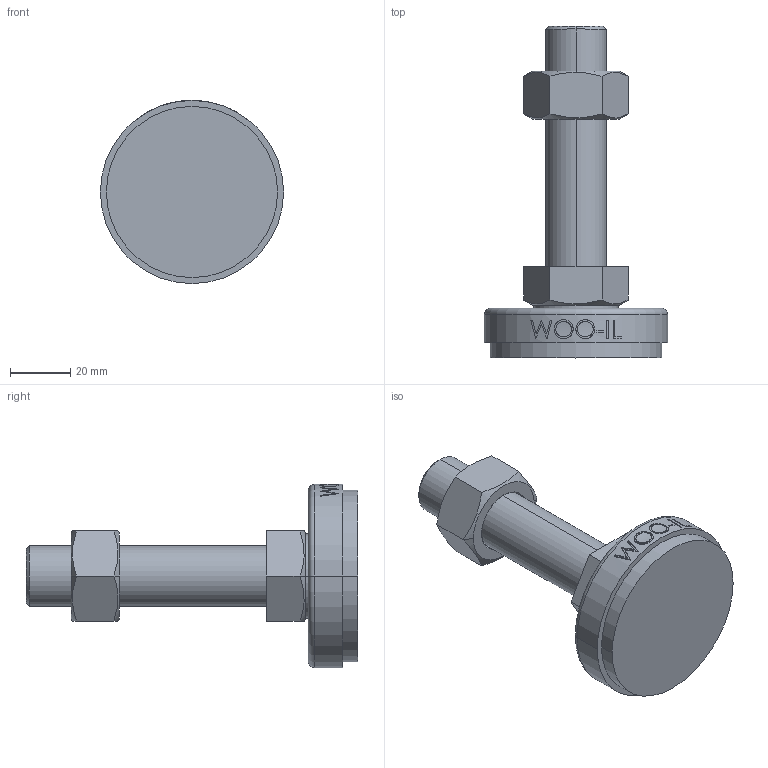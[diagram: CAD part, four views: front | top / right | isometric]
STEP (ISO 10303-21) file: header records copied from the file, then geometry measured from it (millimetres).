
FILE_DESCRIPTION (( 'STEP AP214' ), '1' );
FILE_NAME ('NS61-M20-80.step', '2021-01-11T05:47:12', ( '' ), ( '' ), 'SwSTEP 2.0', 'SolidWorks 2019', '' );
FILE_SCHEMA (( 'AUTOMOTIVE_DESIGN' ));
Length unit declared in the file: millimetre
Products named in the file (2): NS61-M20-80
Bounding box: 61 x 110.5 x 61 mm (x, y, z)
Volume: 89265.1 mm3; surface area: 20153.9 mm2
Topology: 3 solids, 3 shells, 96 faces, 223 edges, 144 vertices
Faces by surface type: plane 48, cylinder 18, bspline 16, cone 12, torus 2
Entity records: 4264 total; most frequent: CARTESIAN_POINT 2139, ORIENTED_EDGE 446, DIRECTION 381, EDGE_CURVE 223, VERTEX_POINT 144, AXIS2_PLACEMENT_3D 142, EDGE_LOOP 109, LINE 97
